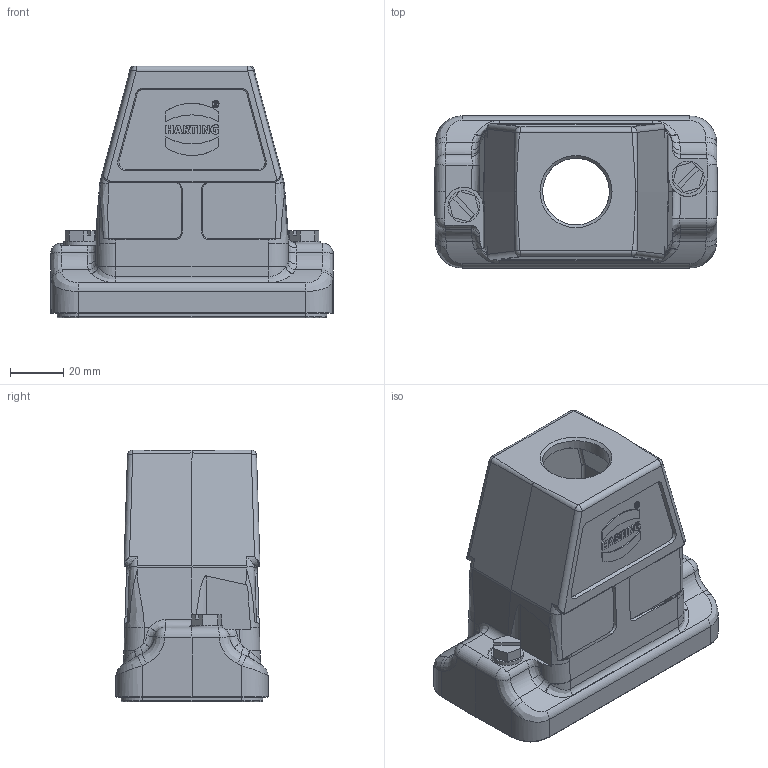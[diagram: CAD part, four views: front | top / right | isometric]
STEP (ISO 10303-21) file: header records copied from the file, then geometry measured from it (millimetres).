
FILE_DESCRIPTION(/* description */ (''),/* implementation_level */ '2;1');
FILE_NAME(/* name */ '100697824ugm000_d.stp',/* time_stamp */ '2022-10-14T13:22:33+02:00',/* author */ (''),/* organization */ (''),/* preprocessor_version */ 'ST-DEVELOPER v16.7',/* originating_system */ 'SIEMENS PLM Software NX 1911',/* authorisation */ '');
FILE_SCHEMA (('AUTOMOTIVE_DESIGN { 1 0 10303 214 3 1 1 1 }'));
Length unit declared in the file: millimetre
Products named in the file (1): 100697824ugm000_d
Bounding box: 106 x 57 x 94.4 mm (x, y, z)
Volume: 100755.3 mm3; surface area: 52266 mm2
Topology: 1 solids, 1 shells, 926 faces, 2407 edges, 1526 vertices
Faces by surface type: plane 424, bspline 235, cylinder 181, cone 51, torus 21, sphere 14
Full cylindrical faces by diameter (mm): 3 x4, 5.3 x2, 6 x2, 12 x2, 25 x1
Entity records: 41840 total; most frequent: CARTESIAN_POINT 14762, ORIENTED_EDGE 4644, DIRECTION 3567, EDGE_CURVE 2322, VERTEX_POINT 1502, LINE 1221, VECTOR 1221, AXIS2_PLACEMENT_3D 1173
